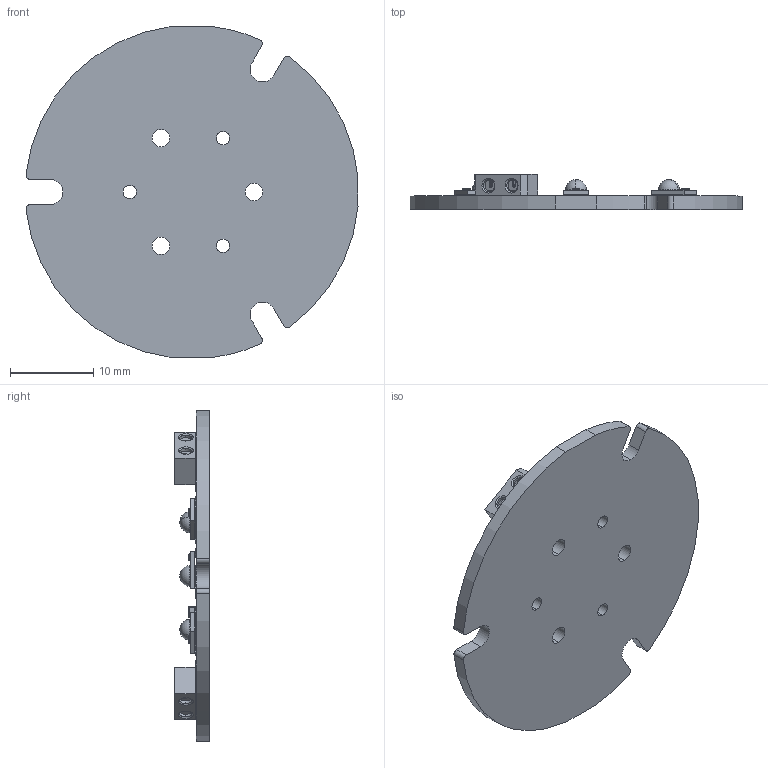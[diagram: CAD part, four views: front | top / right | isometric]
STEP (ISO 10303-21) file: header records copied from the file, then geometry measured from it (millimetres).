
FILE_DESCRIPTION (( 'STEP AP214' ), '1' );
FILE_NAME ('SW-07.STEP', '2023-11-14T03:03:38', ( '' ), ( '' ), 'SwSTEP 2.0', 'SolidWorks 2021', '' );
FILE_SCHEMA (( 'AUTOMOTIVE_DESIGN' ));
Length unit declared in the file: millimetre
Products named in the file (1): SW-07
Bounding box: 39.82 x 4.18 x 39.69 mm (x, y, z)
Volume: 2082.5 mm3; surface area: 3389.2 mm2
Topology: 15 solids, 15 shells, 1748 faces, 4568 edges, 2939 vertices
Faces by surface type: plane 995, cylinder 417, bspline 228, sphere 50, torus 42, cone 16
Entity records: 78105 total; most frequent: CARTESIAN_POINT 20904, ORIENTED_EDGE 9022, DIRECTION 8024, EDGE_CURVE 4511, VECTOR 3128, LINE 3128, VERTEX_POINT 2932, AXIS2_PLACEMENT_3D 2448
